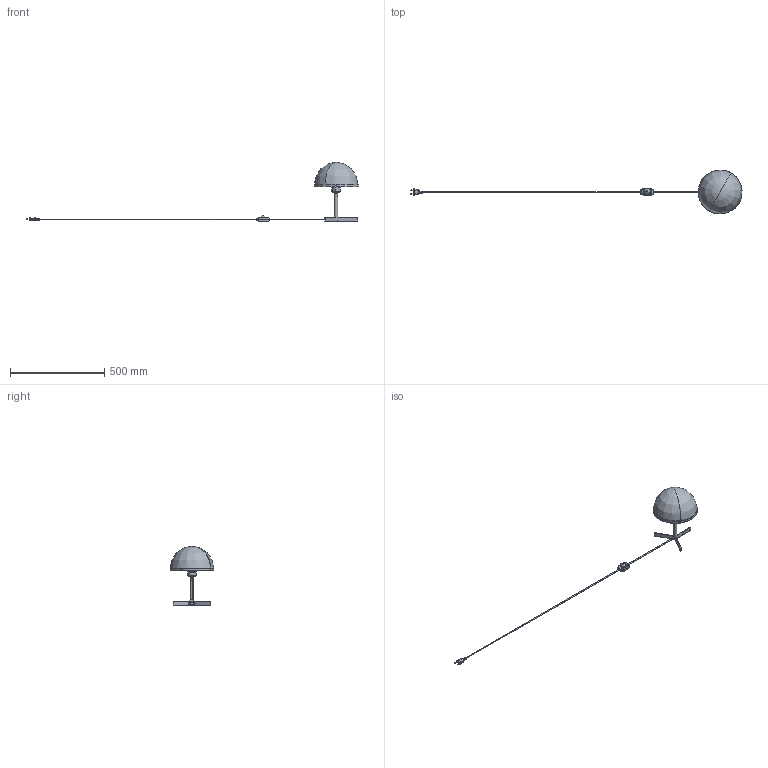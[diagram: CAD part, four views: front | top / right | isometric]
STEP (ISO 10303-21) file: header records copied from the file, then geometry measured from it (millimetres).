
FILE_DESCRIPTION(/* description */ (''),/* implementation_level */ '2;1');
FILE_NAME(/* name */ '29913_3d',/* time_stamp */ '2026-02-25T11:41:55+01:00',/* author */ (''),/* organization */ (''),/* preprocessor_version */ 'ST-DEVELOPER v19.2',/* originating_system */ 'Rhino 8.23',/* authorisation */ '');
FILE_SCHEMA (('CONFIG_CONTROL_DESIGN'));
Length unit declared in the file: millimetre
Products named in the file (2): Document; 29913 DOME S
Bounding box: 1761.72 x 232.7 x 313.82 mm (x, y, z)
Volume: 90113.5 mm3; surface area: 356431.6 mm2
Topology: 10 solids, 708 shells, 1270 faces, 4427 edges, 3836 vertices
Faces by surface type: cylinder 534, plane 377, bspline 359
Entity records: 70544 total; most frequent: CARTESIAN_POINT 37515, ORIENTED_EDGE 5642, EDGE_CURVE 4417, DIRECTION 4363, VERTEX_POINT 3836, AXIS2_PLACEMENT_3D 2637, B_SPLINE_CURVE_WITH_KNOTS 2266, CIRCLE 1719
